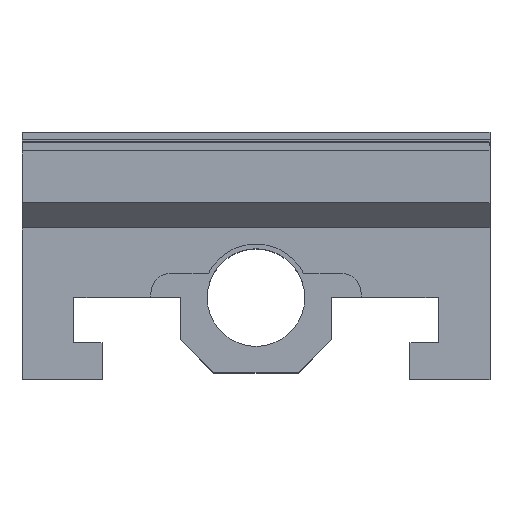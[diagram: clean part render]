
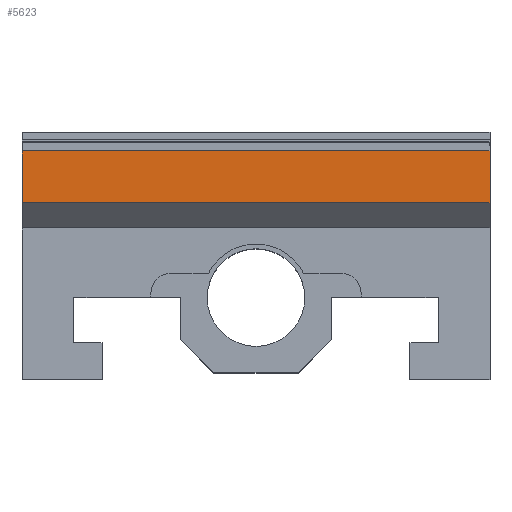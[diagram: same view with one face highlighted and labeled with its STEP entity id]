
A CAD part, top view. The second image highlights one B-rep face of the part: STEP entity #5623.
In plain terms, the highlighted planar face has unit normal (0, 0, 1).
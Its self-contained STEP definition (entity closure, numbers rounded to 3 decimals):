
#128 = VECTOR ( 'NONE', #2862, 1000. ) ;
#461 = VERTEX_POINT ( 'NONE', #4956 ) ;
#865 = DIRECTION ( 'NONE',  ( 1., 0., 0. ) ) ;
#963 = ORIENTED_EDGE ( 'NONE', *, *, #5682, .F. ) ;
#1078 = VECTOR ( 'NONE', #6082, 1000. ) ;
#1135 = ORIENTED_EDGE ( 'NONE', *, *, #5790, .F. ) ;
#1350 = LINE ( 'NONE', #2901, #128 ) ;
#1902 = EDGE_LOOP ( 'NONE', ( #3048, #963, #1135, #5169 ) ) ;
#2078 = CARTESIAN_POINT ( 'NONE',  ( 62.3, 0., 10.7 ) ) ;
#2206 = FACE_OUTER_BOUND ( 'NONE', #1902, .T. ) ;
#2305 = VERTEX_POINT ( 'NONE', #3784 ) ;
#2450 = VERTEX_POINT ( 'NONE', #4075 ) ;
#2655 = LINE ( 'NONE', #2078, #1078 ) ;
#2660 = EDGE_CURVE ( 'NONE', #2450, #2305, #2655, .T. ) ;
#2670 = DIRECTION ( 'NONE',  ( 0., -1., 0. ) ) ;
#2862 = DIRECTION ( 'NONE',  ( 1., 0., 0. ) ) ;
#2901 = CARTESIAN_POINT ( 'NONE',  ( -62.5, 25.2, 10.7 ) ) ;
#3048 = ORIENTED_EDGE ( 'NONE', *, *, #2660, .F. ) ;
#3324 = CARTESIAN_POINT ( 'NONE',  ( -62.3, 0., 10.7 ) ) ;
#3504 = EDGE_CURVE ( 'NONE', #5209, #2305, #1350, .T. ) ;
#3619 = CARTESIAN_POINT ( 'NONE',  ( -62.3, 25.2, 10.7 ) ) ;
#3690 = PLANE ( 'NONE',  #5702 ) ;
#3722 = VECTOR ( 'NONE', #865, 1000. ) ;
#3784 = CARTESIAN_POINT ( 'NONE',  ( 62.3, 25.2, 10.7 ) ) ;
#4075 = CARTESIAN_POINT ( 'NONE',  ( 62.3, 39., 10.7 ) ) ;
#4157 = DIRECTION ( 'NONE',  ( 0., 0., 1. ) ) ;
#4772 = DIRECTION ( 'NONE',  ( 0., 1., 0. ) ) ;
#4956 = CARTESIAN_POINT ( 'NONE',  ( -62.3, 39., 10.7 ) ) ;
#5169 = ORIENTED_EDGE ( 'NONE', *, *, #3504, .T. ) ;
#5209 = VERTEX_POINT ( 'NONE', #3619 ) ;
#5361 = LINE ( 'NONE', #5817, #3722 ) ;
#5400 = LINE ( 'NONE', #3324, #5919 ) ;
#5623 = ADVANCED_FACE ( 'NONE', ( #2206 ), #3690, .T. ) ;
#5682 = EDGE_CURVE ( 'NONE', #461, #2450, #5361, .T. ) ;
#5702 = AXIS2_PLACEMENT_3D ( 'NONE', #6124, #4157, #2670 ) ;
#5790 = EDGE_CURVE ( 'NONE', #5209, #461, #5400, .T. ) ;
#5817 = CARTESIAN_POINT ( 'NONE',  ( -62.5, 39., 10.7 ) ) ;
#5919 = VECTOR ( 'NONE', #4772, 1000. ) ;
#6082 = DIRECTION ( 'NONE',  ( 0., -1., 0. ) ) ;
#6124 = CARTESIAN_POINT ( 'NONE',  ( -62.5, 0., 10.7 ) ) ;
